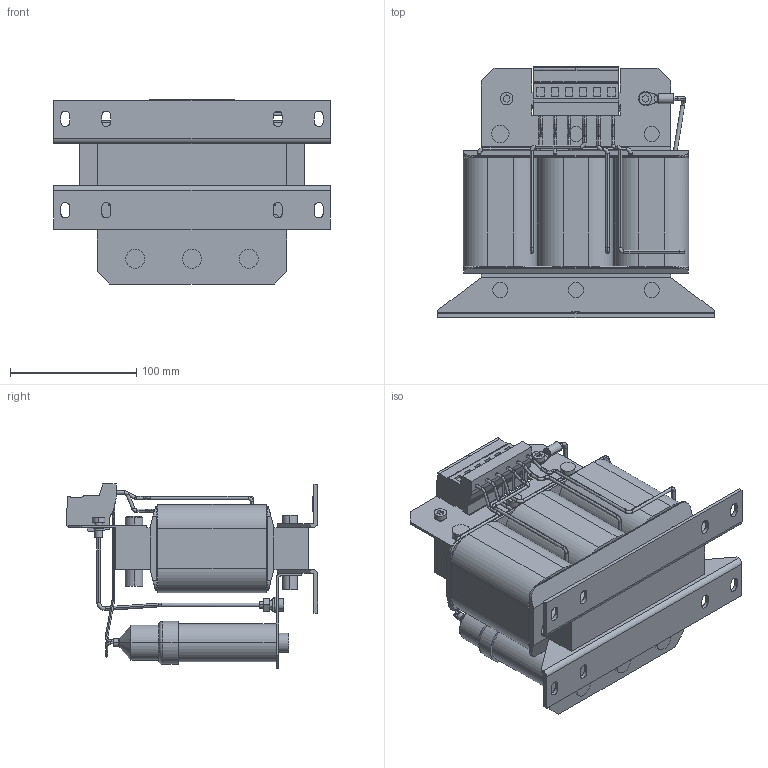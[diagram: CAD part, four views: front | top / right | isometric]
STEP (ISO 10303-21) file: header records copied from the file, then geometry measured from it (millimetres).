
FILE_DESCRIPTION (( 'STEP AP214' ), '1' );
FILE_NAME ('00Z1GX4-0014.STEP', '2023-03-07T09:59:51', ( '' ), ( '' ), 'SwSTEP 2.0', 'SolidWorks 2022', '' );
FILE_SCHEMA (( 'AUTOMOTIVE_DESIGN' ));
Length unit declared in the file: millimetre
Products named in the file (1): 00Z1GX4-0014
Bounding box: 219 x 199.3 x 145.85 mm (x, y, z)
Volume: 1845409.6 mm3; surface area: 242159.1 mm2
Topology: 1 solids, 1 shells, 713 faces, 1843 edges, 1172 vertices
Faces by surface type: cylinder 278, plane 276, torus 120, bspline 33, cone 6
Entity records: 24643 total; most frequent: CARTESIAN_POINT 6801, DIRECTION 3777, ORIENTED_EDGE 3662, EDGE_CURVE 1831, AXIS2_PLACEMENT_3D 1471, VERTEX_POINT 1166, LINE 835, VECTOR 835
